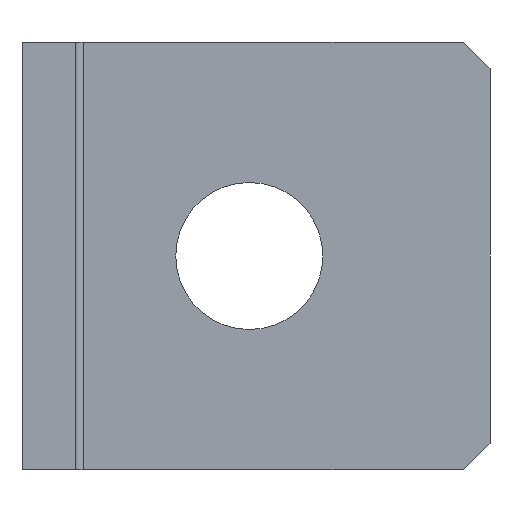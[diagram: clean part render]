
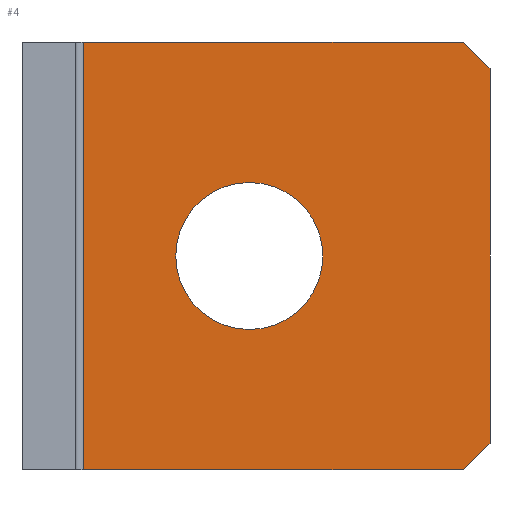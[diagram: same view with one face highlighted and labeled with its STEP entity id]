
A CAD part, left-side view. The second image highlights one B-rep face of the part: STEP entity #4.
In plain terms, the highlighted planar face has unit normal (-1, 0, 0).
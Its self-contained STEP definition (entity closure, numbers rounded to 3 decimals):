
#1 = CARTESIAN_POINT ( 'NONE',  ( -2., -9., -7. ) ) ;
#4 = ADVANCED_FACE ( 'NONE', ( #275, #444 ), #208, .F. ) ;
#12 = EDGE_LOOP ( 'NONE', ( #339, #170 ) ) ;
#21 = CARTESIAN_POINT ( 'NONE',  ( -2., 0., 0. ) ) ;
#23 = CARTESIAN_POINT ( 'NONE',  ( -2., -9., 8. ) ) ;
#31 = EDGE_CURVE ( 'NONE', #173, #198, #203, .T. ) ;
#71 = CARTESIAN_POINT ( 'NONE',  ( -2., -8., 8. ) ) ;
#74 = VERTEX_POINT ( 'NONE', #382 ) ;
#83 = CARTESIAN_POINT ( 'NONE',  ( -2., -8., 8. ) ) ;
#98 = CARTESIAN_POINT ( 'NONE',  ( -2., 6.2, -8. ) ) ;
#121 = EDGE_CURVE ( 'NONE', #74, #227, #175, .T. ) ;
#122 = CARTESIAN_POINT ( 'NONE',  ( -2., -8., -8. ) ) ;
#132 = VERTEX_POINT ( 'NONE', #458 ) ;
#134 = AXIS2_PLACEMENT_3D ( 'NONE', #137, #348, #278 ) ;
#137 = CARTESIAN_POINT ( 'NONE',  ( -2., -9., 8. ) ) ;
#147 = DIRECTION ( 'NONE',  ( 0., -1., 0. ) ) ;
#168 = ORIENTED_EDGE ( 'NONE', *, *, #424, .T. ) ;
#170 = ORIENTED_EDGE ( 'NONE', *, *, #381, .T. ) ;
#173 = VERTEX_POINT ( 'NONE', #320 ) ;
#175 = LINE ( 'NONE', #315, #422 ) ;
#178 = CIRCLE ( 'NONE', #417, 2.75 ) ;
#181 = VECTOR ( 'NONE', #223, 1000. ) ;
#186 = ORIENTED_EDGE ( 'NONE', *, *, #323, .T. ) ;
#192 = VERTEX_POINT ( 'NONE', #71 ) ;
#195 = LINE ( 'NONE', #228, #270 ) ;
#198 = VERTEX_POINT ( 'NONE', #1 ) ;
#203 = LINE ( 'NONE', #23, #389 ) ;
#208 = PLANE ( 'NONE',  #134 ) ;
#213 = EDGE_LOOP ( 'NONE', ( #224, #333, #352, #186, #441, #168 ) ) ;
#223 = DIRECTION ( 'NONE',  ( 0., 0.707, 0.707 ) ) ;
#224 = ORIENTED_EDGE ( 'NONE', *, *, #121, .T. ) ;
#227 = VERTEX_POINT ( 'NONE', #122 ) ;
#228 = CARTESIAN_POINT ( 'NONE',  ( -2., -9., -7. ) ) ;
#229 = CARTESIAN_POINT ( 'NONE',  ( -2., -9., 8. ) ) ;
#231 = DIRECTION ( 'NONE',  ( 0., 0., -1. ) ) ;
#237 = EDGE_CURVE ( 'NONE', #425, #192, #437, .T. ) ;
#253 = EDGE_CURVE ( 'NONE', #132, #310, #178, .T. ) ;
#264 = CARTESIAN_POINT ( 'NONE',  ( -2., 0., 0. ) ) ;
#270 = VECTOR ( 'NONE', #368, 1000. ) ;
#272 = CARTESIAN_POINT ( 'NONE',  ( -2., 0., 2.75 ) ) ;
#275 = FACE_BOUND ( 'NONE', #12, .T. ) ;
#278 = DIRECTION ( 'NONE',  ( 0., 0., -1. ) ) ;
#297 = LINE ( 'NONE', #98, #360 ) ;
#301 = CARTESIAN_POINT ( 'NONE',  ( -2., 6.2, 8. ) ) ;
#310 = VERTEX_POINT ( 'NONE', #272 ) ;
#315 = CARTESIAN_POINT ( 'NONE',  ( -2., -9., -8. ) ) ;
#320 = CARTESIAN_POINT ( 'NONE',  ( -2., -9., 7. ) ) ;
#322 = LINE ( 'NONE', #83, #181 ) ;
#323 = EDGE_CURVE ( 'NONE', #173, #192, #322, .T. ) ;
#325 = DIRECTION ( 'NONE',  ( 0., -1., 0. ) ) ;
#332 = DIRECTION ( 'NONE',  ( 1., 0., 0. ) ) ;
#333 = ORIENTED_EDGE ( 'NONE', *, *, #415, .T. ) ;
#339 = ORIENTED_EDGE ( 'NONE', *, *, #253, .T. ) ;
#341 = AXIS2_PLACEMENT_3D ( 'NONE', #21, #436, #231 ) ;
#348 = DIRECTION ( 'NONE',  ( 1., 0., 0. ) ) ;
#352 = ORIENTED_EDGE ( 'NONE', *, *, #31, .F. ) ;
#360 = VECTOR ( 'NONE', #442, 1000. ) ;
#368 = DIRECTION ( 'NONE',  ( 0., -0.707, 0.707 ) ) ;
#381 = EDGE_CURVE ( 'NONE', #310, #132, #440, .T. ) ;
#382 = CARTESIAN_POINT ( 'NONE',  ( -2., 6.2, -8. ) ) ;
#389 = VECTOR ( 'NONE', #414, 1000. ) ;
#404 = VECTOR ( 'NONE', #325, 1000. ) ;
#414 = DIRECTION ( 'NONE',  ( 0., 0., -1. ) ) ;
#415 = EDGE_CURVE ( 'NONE', #227, #198, #195, .T. ) ;
#417 = AXIS2_PLACEMENT_3D ( 'NONE', #264, #332, #439 ) ;
#422 = VECTOR ( 'NONE', #147, 1000. ) ;
#424 = EDGE_CURVE ( 'NONE', #425, #74, #297, .T. ) ;
#425 = VERTEX_POINT ( 'NONE', #301 ) ;
#436 = DIRECTION ( 'NONE',  ( 1., 0., 0. ) ) ;
#437 = LINE ( 'NONE', #229, #404 ) ;
#439 = DIRECTION ( 'NONE',  ( 0., 0., -1. ) ) ;
#440 = CIRCLE ( 'NONE', #341, 2.75 ) ;
#441 = ORIENTED_EDGE ( 'NONE', *, *, #237, .F. ) ;
#442 = DIRECTION ( 'NONE',  ( 0., 0., -1. ) ) ;
#444 = FACE_OUTER_BOUND ( 'NONE', #213, .T. ) ;
#458 = CARTESIAN_POINT ( 'NONE',  ( -2., 0., -2.75 ) ) ;
